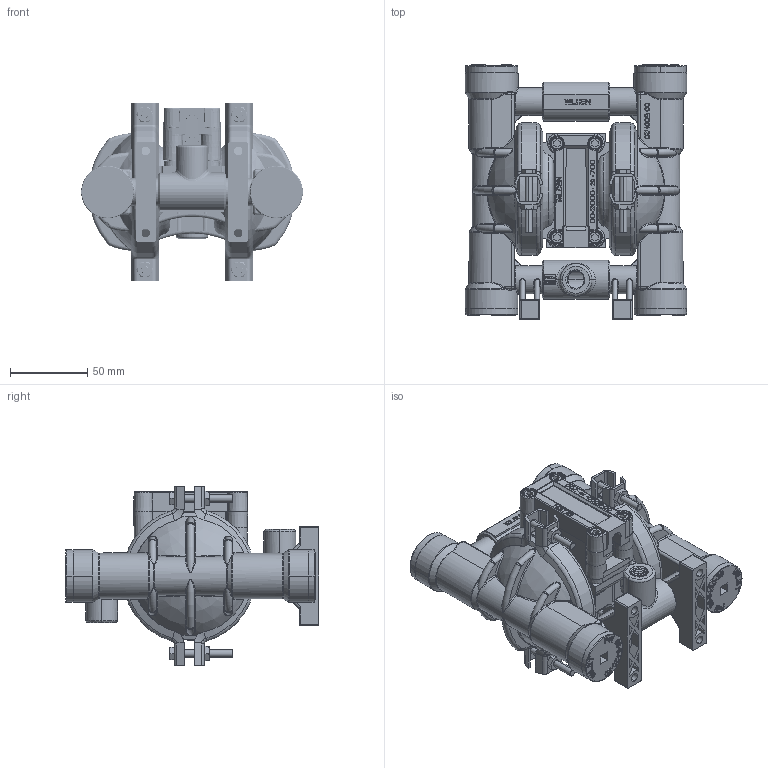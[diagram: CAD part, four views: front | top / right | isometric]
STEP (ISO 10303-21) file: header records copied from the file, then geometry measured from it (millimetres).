
FILE_DESCRIPTION((''),'2;1');
FILE_NAME('P025_PLASTIC_TOP_SW0001','2012-08-24T',('Nathan.Hale'),(''),'PRO/ENGINEER BY PARAMETRIC TECHNOLOGY CORPORATION, 2011180','PRO/ENGINEER BY PARAMETRIC TECHNOLOGY CORPORATION, 2011180','');
FILE_SCHEMA(('CONFIG_CONTROL_DESIGN'));
Products named in the file (1): P025_PLASTIC_TOP_SW0001
Bounding box: 143.76 x 164.72 x 115.9 mm (x, y, z)
Volume: 540709.5 mm3; surface area: 215126.8 mm2
Topology: 5 solids, 5 shells, 6267 faces, 17013 edges, 11018 vertices
Faces by surface type: plane 4634, cylinder 672, bspline 384, torus 266, cone 239, sphere 72
Entity records: 290995 total; most frequent: CARTESIAN_POINT 136519, ORIENTED_EDGE 33978, DIRECTION 28864, EDGE_CURVE 16989, VECTOR 13164, LINE 13164, VERTEX_POINT 11018, AXIS2_PLACEMENT_3D 7850
